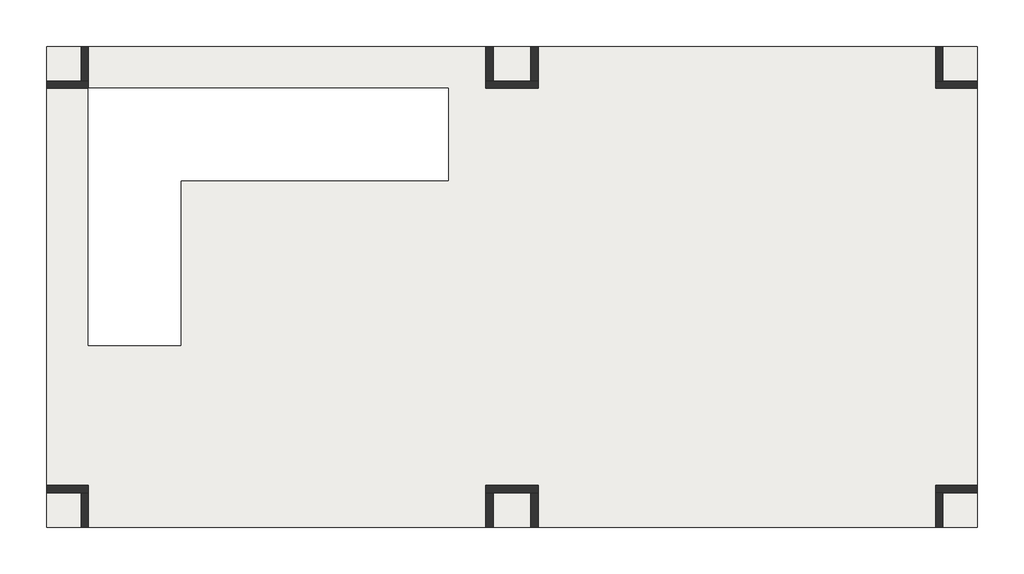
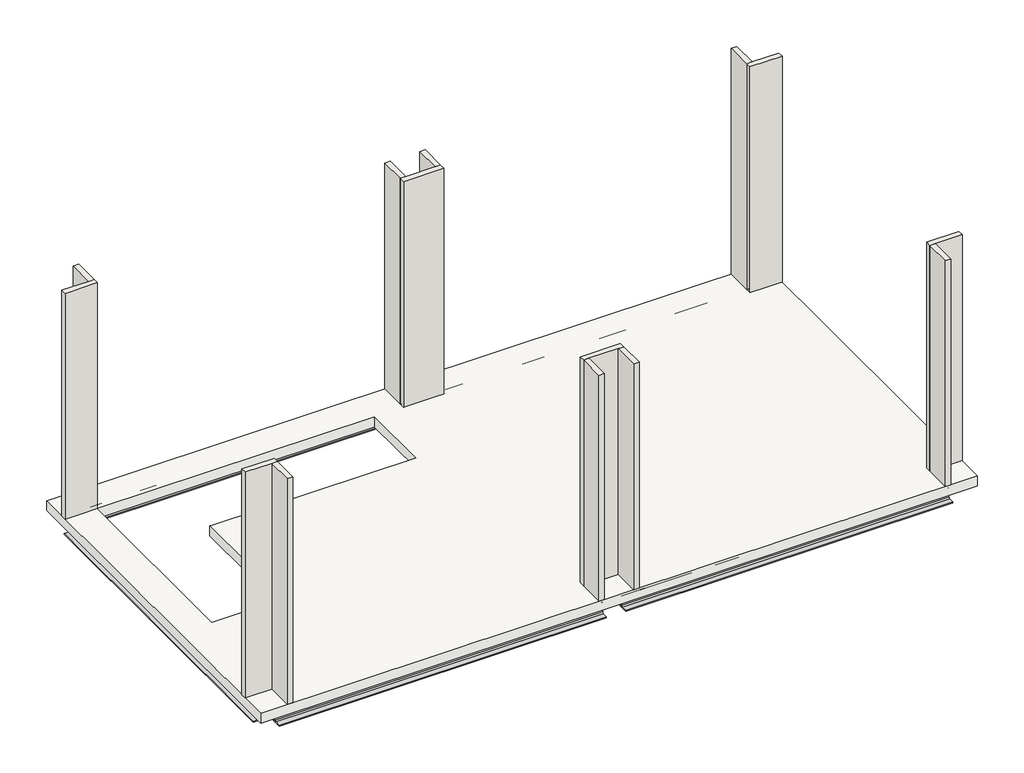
# One storey: 14 walls, 7 beams, 1 slab.
"""IFC4 building model written with IfcOpenShell, lengths in millimetres."""

from ifc_helpers import new_model, si_unit, frame, origin, place, context, project, spatial, polyline, outline, extrude, faceted_brep, transform, mapped, element, save
from components import heb200_d26bcb9a

model = new_model("IFC4")

# Units and contexts
model_context = context("Model", 3, world=origin())
ifc_project = project(units=[si_unit("LENGTHUNIT", "METRE", prefix="MILLI")], contexts=[model_context])

# Site, building, storey
site = spatial("IfcSite", under=ifc_project)
building = spatial("IfcBuilding", under=site)
storey = spatial("IfcBuildingStorey", under=building, Name="2階", Elevation=3800.0)

# Beams
placement = place(None, origin())
heb200_shape = heb200_d26bcb9a(model_context)
element("IfcBeam", 1, ObjectType="HE-B : HEB200", at=placement, inside=storey, context=model_context, shape_type="MappedRepresentation", body=[
    mapped(heb200_shape, transform((-5047.3880564, 86.0382733, 3550.0), x_axis=(0.0, -1.0, 0.0), y_axis=(1.0, 0.0, 0.0), z_axis=(0.0, 0.0, 1.0))),
])
element("IfcBeam", 2, ObjectType="HE-B : HEB200", at=placement, inside=storey, context=model_context, shape_type="MappedRepresentation", body=[
    mapped(heb200_shape, transform((-47.3880564, 86.0382733, 3550.0), x_axis=(0.0, -1.0, 0.0), y_axis=(1.0, 0.0, 0.0), z_axis=(0.0, 0.0, 1.0))),
])
element("IfcBeam", 3, ObjectType="HE-B : HEB200", at=placement, inside=storey, context=model_context, shape_type="MappedRepresentation", body=[
    mapped(heb200_shape, transform((4952.6119436, 86.0382733, 3550.0), x_axis=(0.0, -1.0, 0.0), y_axis=(1.0, 0.0, 0.0), z_axis=(0.0, 0.0, 1.0))),
])
element("IfcBeam", 4, ObjectType="HE-B : HEB200", at=placement, inside=storey, context=model_context, shape_type="MappedRepresentation", body=[
    mapped(heb200_shape, transform((2452.6119436, -2413.9617267, 3550.0), x_axis=(-1.0, 0.0, 0.0), y_axis=(0.0, -1.0, 0.0), z_axis=(0.0, 0.0, 1.0))),
])
element("IfcBeam", 5, ObjectType="HE-B : HEB200", at=placement, inside=storey, context=model_context, shape_type="MappedRepresentation", body=[
    mapped(heb200_shape, transform((-2547.3880564, -2413.9617267, 3550.0), x_axis=(-1.0, 0.0, 0.0), y_axis=(0.0, -1.0, 0.0), z_axis=(0.0, 0.0, 1.0))),
])
element("IfcBeam", 6, ObjectType="HE-B : HEB200", at=placement, inside=storey, context=model_context, shape_type="MappedRepresentation", body=[
    mapped(heb200_shape, transform((2452.6119436, 2586.0382733, 3550.0), x_axis=(-1.0, 0.0, 0.0), y_axis=(0.0, -1.0, 0.0), z_axis=(0.0, 0.0, 1.0))),
])
element("IfcBeam", 7, ObjectType="HE-B : HEB200", at=placement, inside=storey, context=model_context, shape_type="MappedRepresentation", body=[
    mapped(heb200_shape, transform((-2547.3880564, 2586.0382733, 3550.0), x_axis=(-1.0, 0.0, 0.0), y_axis=(0.0, -1.0, 0.0), z_axis=(0.0, 0.0, 1.0))),
])

# Slab
element("IfcSlab", 8, ObjectType="一般 150 mm", at=placement, inside=storey, context=model_context, shape_type="SweptSolid", body=[
    extrude(outline(polyline([(5127.6119436, 2761.0382733), (5127.6119436, -2588.9617267), (-5222.3880564, -2588.9617267), (-5222.3880564, 2761.0382733), (5127.6119436, 2761.0382733)]), holes=[polyline([(-3727.8880564, 1266.5382733), (-757.3880564, 1266.5382733), (-757.3880564, 2296.5382733), (-4757.8880564, 2296.5382733), (-4757.8880564, -563.9617267), (-3727.8880564, -563.9617267), (-3727.8880564, 1266.5382733)])]), frame((0.0, 0.0, 3650.0), z_axis=(0.0, 0.0, 1.0), x_axis=(1.0, 0.0, 0.0)), (0.0, 0.0, 1.0), 150.0),
])

# Walls
element("IfcWall", 9, ObjectType="内壁-79mm 間仕切り(1時間)", at=placement, inside=storey, context=model_context, shape_type="SweptSolid", body=[
    extrude(outline(polyline([(-4836.8880564, 2375.5382733), (-4836.8880564, 2761.0382733), (-4757.8880564, 2761.0382733), (-4757.8880564, 2375.5382733), (-4836.8880564, 2375.5382733)])), frame((0.0, 0.0, 3800.0), z_axis=(0.0, 0.0, 1.0), x_axis=(1.0, 0.0, 0.0)), (0.0, 0.0, 1.0), 3450.0),
])
element("IfcWall", 10, ObjectType="内壁-79mm 間仕切り(1時間)", at=placement, inside=storey, context=model_context, shape_type="Brep", body=[
    faceted_brep([(-4757.8880564, 2375.5382733, 3800.0), (-4836.8880564, 2375.5382733, 3800.0), (-5222.3880564, 2375.5382733, 3800.0), (-5222.3880564, 2375.5382733, 7250.0), (-4836.8880564, 2375.5382733, 7250.0), (-4757.8880564, 2375.5382733, 7250.0), (-4757.8880564, 2296.5382733, 3800.0), (-4757.8880564, 2296.5382733, 7250.0), (-5222.3880564, 2296.5382733, 7250.0), (-5222.3880564, 2296.5382733, 3800.0)], [[[0, 1, 2, 3, 4, 5]], [[6, 7, 8, 9]], [[2, 1, 0, 6, 9]], [[5, 4, 3, 8, 7]], [[0, 5, 7, 6]], [[3, 2, 9, 8]]]),
])
element("IfcWall", 11, ObjectType="内壁-79mm 間仕切り(1時間)", at=placement, inside=storey, context=model_context, shape_type="SweptSolid", body=[
    extrude(outline(polyline([(163.1119436, 2375.5382733), (163.1119436, 2761.0382733), (242.1119436, 2761.0382733), (242.1119436, 2375.5382733), (163.1119436, 2375.5382733)])), frame((0.0, 0.0, 3800.0), z_axis=(0.0, 0.0, 1.0), x_axis=(1.0, 0.0, 0.0)), (0.0, 0.0, 1.0), 3450.0),
])
element("IfcWall", 12, ObjectType="内壁-79mm 間仕切り(1時間)", at=placement, inside=storey, context=model_context, shape_type="Brep", body=[
    faceted_brep([(242.1119436, 2375.5382733, 3800.0), (163.1119436, 2375.5382733, 3800.0), (-257.8880564, 2375.5382733, 3800.0), (-336.8880564, 2375.5382733, 3800.0), (-336.8880564, 2375.5382733, 7250.0), (-257.8880564, 2375.5382733, 7250.0), (163.1119436, 2375.5382733, 7250.0), (242.1119436, 2375.5382733, 7250.0), (242.1119436, 2296.5382733, 3800.0), (242.1119436, 2296.5382733, 7250.0), (-336.8880564, 2296.5382733, 7250.0), (-336.8880564, 2296.5382733, 3800.0)], [[[0, 1, 2, 3, 4, 5, 6, 7]], [[8, 9, 10, 11]], [[3, 2, 1, 0, 8, 11]], [[7, 6, 5, 4, 10, 9]], [[0, 7, 9, 8]], [[4, 3, 11, 10]]]),
])
element("IfcWall", 13, ObjectType="内壁-79mm 間仕切り(1時間)", at=placement, inside=storey, context=model_context, shape_type="SweptSolid", body=[
    extrude(outline(polyline([(-257.8880564, 2761.0382733), (-257.8880564, 2375.5382733), (-336.8880564, 2375.5382733), (-336.8880564, 2761.0382733), (-257.8880564, 2761.0382733)])), frame((0.0, 0.0, 3800.0), z_axis=(0.0, 0.0, 1.0), x_axis=(1.0, 0.0, 0.0)), (0.0, 0.0, 1.0), 3450.0),
])
element("IfcWall", 14, ObjectType="内壁-79mm 間仕切り(1時間)", at=placement, inside=storey, context=model_context, shape_type="SweptSolid", body=[
    extrude(outline(polyline([(4663.1119436, 2375.5382733), (4663.1119436, 2761.0382733), (4742.1119436, 2761.0382733), (4742.1119436, 2375.5382733), (4663.1119436, 2375.5382733)])), frame((0.0, 0.0, 3800.0), z_axis=(0.0, 0.0, 1.0), x_axis=(1.0, 0.0, 0.0)), (0.0, 0.0, 1.0), 3450.0),
])
element("IfcWall", 15, ObjectType="内壁-79mm 間仕切り(1時間)", at=placement, inside=storey, context=model_context, shape_type="Brep", body=[
    faceted_brep([(4663.1119436, 2296.5382733, 3800.0), (5127.6119436, 2296.5382733, 3800.0), (5127.6119436, 2296.5382733, 7250.0), (4663.1119436, 2296.5382733, 7250.0), (4663.1119436, 2375.5382733, 3800.0), (4663.1119436, 2375.5382733, 7250.0), (4742.1119436, 2375.5382733, 7250.0), (5127.6119436, 2375.5382733, 7250.0), (5127.6119436, 2375.5382733, 3800.0), (4742.1119436, 2375.5382733, 3800.0)], [[[0, 1, 2, 3]], [[4, 5, 6, 7, 8, 9]], [[1, 0, 4, 9, 8]], [[3, 2, 7, 6, 5]], [[0, 3, 5, 4]], [[2, 1, 8, 7]]]),
])
element("IfcWall", 16, ObjectType="内壁-79mm 間仕切り(1時間)", at=placement, inside=storey, context=model_context, shape_type="SweptSolid", body=[
    extrude(outline(polyline([(-4757.8880564, -2203.4617267), (-4757.8880564, -2588.9617267), (-4836.8880564, -2588.9617267), (-4836.8880564, -2203.4617267), (-4757.8880564, -2203.4617267)])), frame((0.0, 0.0, 3800.0), z_axis=(0.0, 0.0, 1.0), x_axis=(1.0, 0.0, 0.0)), (0.0, 0.0, 1.0), 3450.0),
])
element("IfcWall", 17, ObjectType="内壁-79mm 間仕切り(1時間)", at=placement, inside=storey, context=model_context, shape_type="Brep", body=[
    faceted_brep([(-4757.8880564, -2124.4617267, 3800.0), (-5222.3880564, -2124.4617267, 3800.0), (-5222.3880564, -2124.4617267, 7250.0), (-4757.8880564, -2124.4617267, 7250.0), (-4757.8880564, -2203.4617267, 3800.0), (-4757.8880564, -2203.4617267, 7250.0), (-4836.8880564, -2203.4617267, 7250.0), (-5222.3880564, -2203.4617267, 7250.0), (-5222.3880564, -2203.4617267, 3800.0), (-4836.8880564, -2203.4617267, 3800.0)], [[[0, 1, 2, 3]], [[4, 5, 6, 7, 8, 9]], [[1, 0, 4, 9, 8]], [[3, 2, 7, 6, 5]], [[0, 3, 5, 4]], [[2, 1, 8, 7]]]),
])
element("IfcWall", 18, ObjectType="内壁-79mm 間仕切り(1時間)", at=placement, inside=storey, context=model_context, shape_type="SweptSolid", body=[
    extrude(outline(polyline([(242.1119436, -2203.4617267), (242.1119436, -2588.9617267), (163.1119436, -2588.9617267), (163.1119436, -2203.4617267), (242.1119436, -2203.4617267)])), frame((0.0, 0.0, 3800.0), z_axis=(0.0, 0.0, 1.0), x_axis=(1.0, 0.0, 0.0)), (0.0, 0.0, 1.0), 3450.0),
])
element("IfcWall", 19, ObjectType="内壁-79mm 間仕切り(1時間)", at=placement, inside=storey, context=model_context, shape_type="Brep", body=[
    faceted_brep([(242.1119436, -2124.4617267, 3800.0), (-336.8880564, -2124.4617267, 3800.0), (-336.8880564, -2124.4617267, 7250.0), (242.1119436, -2124.4617267, 7250.0), (242.1119436, -2203.4617267, 3800.0), (242.1119436, -2203.4617267, 7250.0), (163.1119436, -2203.4617267, 7250.0), (-257.8880564, -2203.4617267, 7250.0), (-336.8880564, -2203.4617267, 7250.0), (-336.8880564, -2203.4617267, 3800.0), (-257.8880564, -2203.4617267, 3800.0), (163.1119436, -2203.4617267, 3800.0)], [[[0, 1, 2, 3]], [[4, 5, 6, 7, 8, 9, 10, 11]], [[1, 0, 4, 11, 10, 9]], [[3, 2, 8, 7, 6, 5]], [[0, 3, 5, 4]], [[2, 1, 9, 8]]]),
])
element("IfcWall", 20, ObjectType="内壁-79mm 間仕切り(1時間)", at=placement, inside=storey, context=model_context, shape_type="SweptSolid", body=[
    extrude(outline(polyline([(-336.8880564, -2588.9617267), (-336.8880564, -2203.4617267), (-257.8880564, -2203.4617267), (-257.8880564, -2588.9617267), (-336.8880564, -2588.9617267)])), frame((0.0, 0.0, 3800.0), z_axis=(0.0, 0.0, 1.0), x_axis=(1.0, 0.0, 0.0)), (0.0, 0.0, 1.0), 3450.0),
])
element("IfcWall", 21, ObjectType="内壁-79mm 間仕切り(1時間)", at=placement, inside=storey, context=model_context, shape_type="SweptSolid", body=[
    extrude(outline(polyline([(4742.1119436, -2203.4617267), (4742.1119436, -2588.9617267), (4663.1119436, -2588.9617267), (4663.1119436, -2203.4617267), (4742.1119436, -2203.4617267)])), frame((0.0, 0.0, 3800.0), z_axis=(0.0, 0.0, 1.0), x_axis=(1.0, 0.0, 0.0)), (0.0, 0.0, 1.0), 3450.0),
])
element("IfcWall", 22, ObjectType="内壁-79mm 間仕切り(1時間)", at=placement, inside=storey, context=model_context, shape_type="Brep", body=[
    faceted_brep([(4663.1119436, -2203.4617267, 3800.0), (4742.1119436, -2203.4617267, 3800.0), (5127.6119436, -2203.4617267, 3800.0), (5127.6119436, -2203.4617267, 7250.0), (4742.1119436, -2203.4617267, 7250.0), (4663.1119436, -2203.4617267, 7250.0), (4663.1119436, -2124.4617267, 3800.0), (4663.1119436, -2124.4617267, 7250.0), (5127.6119436, -2124.4617267, 7250.0), (5127.6119436, -2124.4617267, 3800.0)], [[[0, 1, 2, 3, 4, 5]], [[6, 7, 8, 9]], [[2, 1, 0, 6, 9]], [[5, 4, 3, 8, 7]], [[0, 5, 7, 6]], [[3, 2, 9, 8]]]),
])

save(model, "model.ifc")
